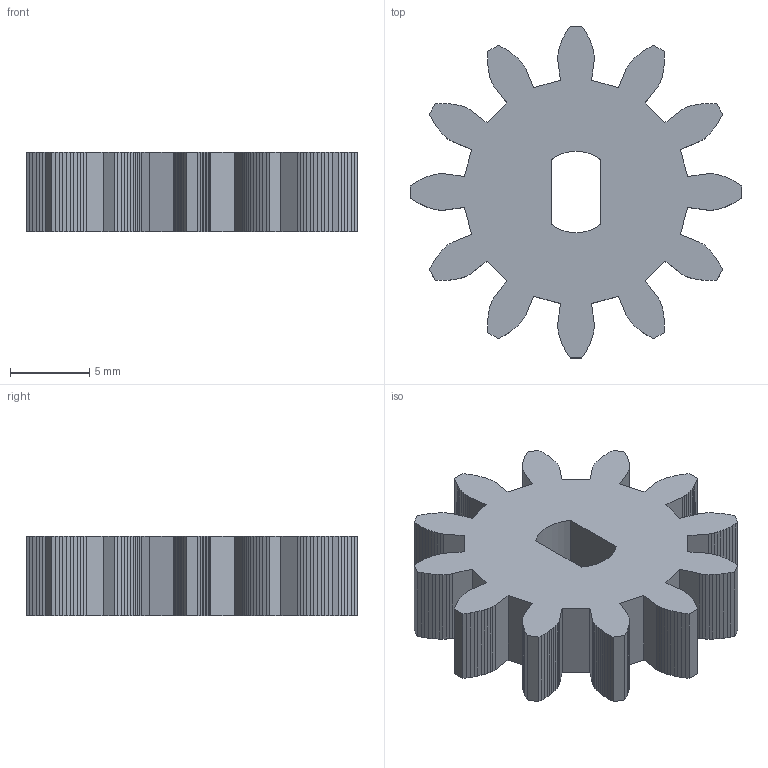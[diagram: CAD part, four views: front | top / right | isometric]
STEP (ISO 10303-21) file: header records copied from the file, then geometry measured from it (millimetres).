
FILE_DESCRIPTION(('Open CASCADE Model'),'2;1');
FILE_NAME('Open CASCADE Shape Model','2026-10-20T12:04:08',('Author'),( 'Open CASCADE'),'Open CASCADE STEP processor 8.0','build123d', 'Unknown');
FILE_SCHEMA(('AUTOMOTIVE_DESIGN { 1 0 10303 214 1 1 1 1 }'));
Length unit declared in the file: millimetre
Products named in the file (1): COMPOUND
Bounding box: 20.99 x 20.99 x 5 mm (x, y, z)
Volume: 1106.7 mm3; surface area: 1103.2 mm2
Topology: 1 solids, 1 shells, 294 faces, 876 edges, 584 vertices
Faces by surface type: plane 292, cylinder 2
Entity records: 21066 total; most frequent: CARTESIAN_POINT 3507, DIRECTION 3222, LINE 2620, VECTOR 2620, ORIENTED_EDGE 1752, PCURVE 1752, DEFINITIONAL_REPRESENTATION 1752, EDGE_CURVE 876
